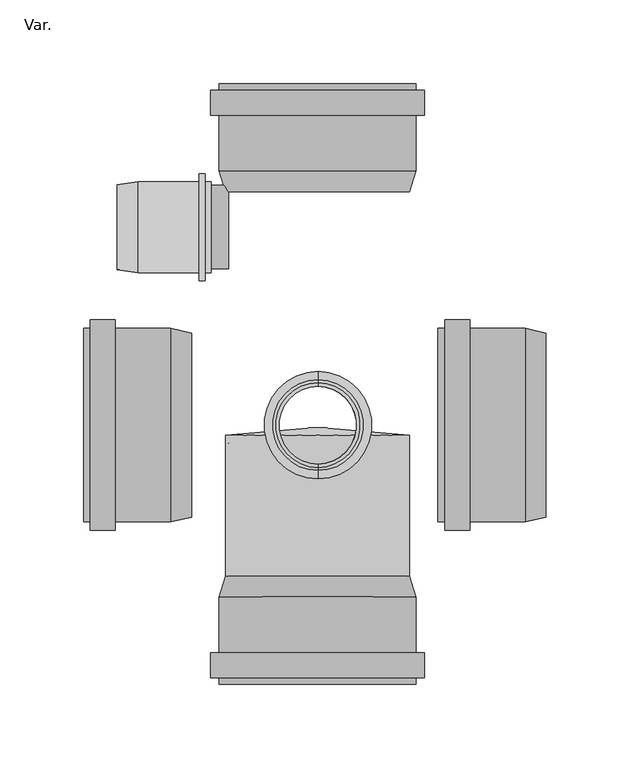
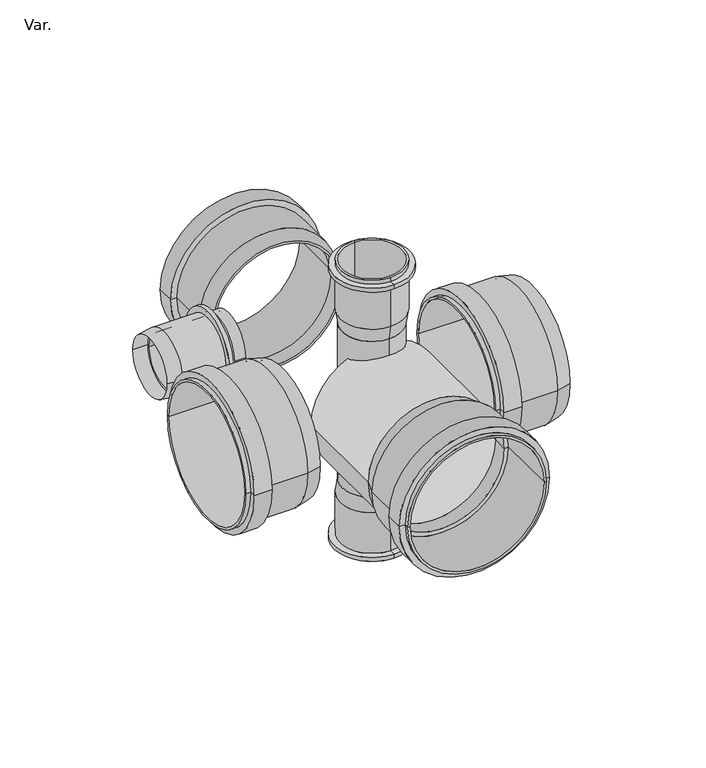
"""IFC4 building model written with IfcOpenShell, lengths in millimetres: pipe fitting geometry, AmancoWavin_Unionesdetubería_SilentiumRamalDobleConVentilación8730110x110 : Var.."""

from ifc_helpers import new_model, si_unit, frame, origin, place, context, project, spatial, polyline, circle_curve, source, transform, mapped, element, save
from ifc_brep_helpers import plane_surface, cylinder_surface, revolved_surface, advanced_brep


def var_1a2ba9cd(model_context):
    return source(origin(), model_context, "Body", "AdvancedBrep", [
        advanced_brep(
        [(-58.8781308, -135.9518162, 0.0), (58.8781308, -135.9518162, 0.0), (63.8781308, -135.9518162, 0.0), (-63.8781308, -135.9518162, 0.0), (63.8781308, -150.9518162, 0.0), (-63.8781308, -150.9518162, 0.0), (58.8781308, -150.9518162, 0.0), (-58.8781308, -150.9518162, 0.0), (58.8781308, -154.9518162, 0.0), (-58.8781308, -154.9518162, 0.0), (56.9781308, -154.9518162, 0.0), (-56.9781308, -154.9518162, 0.0), (56.9781308, -102.7151869, 0.0), (-56.9781308, -102.7151869, 0.0), (-58.8781308, -102.7518162, 0.0), (58.8781308, -102.7518162, 0.0), (-55.0186011, -90.349627, 0.0), (55.0186011, -90.349627, 0.0), (-53.13, -90.349627, 0.0), (53.13, -90.349627, 0.0), (-53.13, -102.7151869, 0.0), (53.13, -102.7151869, 0.0)],
        [
            (0, 1, circle_curve(frame((0.0, -135.9518162, 0.0), z_axis=(0.0, -1.0, 0.0), x_axis=(1.0, 0.0, 0.0)), 58.8781308)),
            (1, 2),
            (2, 3, circle_curve(frame((0.0, -135.9518162, 0.0), z_axis=(0.0, 1.0, 0.0), x_axis=(1.0, 0.0, 0.0)), 63.8781308)),
            (3, 0),
            (1, 0, circle_curve(frame((0.0, -135.9518162, 0.0), z_axis=(0.0, -1.0, 0.0), x_axis=(1.0, 0.0, 0.0)), 58.8781308)),
            (3, 2, circle_curve(frame((0.0, -135.9518162, 0.0), z_axis=(0.0, 1.0, 0.0), x_axis=(1.0, 0.0, 0.0)), 63.8781308)),
            (2, 4),
            (4, 5, circle_curve(frame((0.0, -150.9518162, 0.0), z_axis=(0.0, 1.0, 0.0), x_axis=(1.0, 0.0, 0.0)), 63.8781308)),
            (5, 3),
            (5, 4, circle_curve(frame((0.0, -150.9518162, 0.0), z_axis=(0.0, 1.0, 0.0), x_axis=(1.0, 0.0, 0.0)), 63.8781308)),
            (4, 6),
            (6, 7, circle_curve(frame((0.0, -150.9518162, 0.0), z_axis=(0.0, 1.0, 0.0), x_axis=(1.0, 0.0, 0.0)), 58.8781308)),
            (7, 5),
            (7, 6, circle_curve(frame((0.0, -150.9518162, 0.0), z_axis=(0.0, 1.0, 0.0), x_axis=(1.0, 0.0, 0.0)), 58.8781308)),
            (6, 8),
            (8, 9, circle_curve(frame((0.0, -154.9518162, 0.0), z_axis=(0.0, 1.0, 0.0), x_axis=(1.0, 0.0, 0.0)), 58.8781308)),
            (9, 7),
            (9, 8, circle_curve(frame((0.0, -154.9518162, 0.0), z_axis=(0.0, 1.0, 0.0), x_axis=(1.0, 0.0, 0.0)), 58.8781308)),
            (8, 10),
            (10, 11, circle_curve(frame((0.0, -154.9518162, 0.0), z_axis=(0.0, 1.0, 0.0), x_axis=(1.0, 0.0, 0.0)), 56.9781308)),
            (11, 9),
            (11, 10, circle_curve(frame((0.0, -154.9518162, 0.0), z_axis=(0.0, 1.0, 0.0), x_axis=(1.0, 0.0, 0.0)), 56.9781308)),
            (10, 12),
            (12, 13, circle_curve(frame((0.0, -102.7151869, 0.0), z_axis=(0.0, 1.0, 0.0), x_axis=(1.0, 0.0, 0.0)), 56.9781308)),
            (13, 11),
            (13, 12, circle_curve(frame((0.0, -102.7151869, 0.0), z_axis=(0.0, 1.0, 0.0), x_axis=(1.0, 0.0, 0.0)), 56.9781308)),
            (14, 15, circle_curve(frame((0.0, -102.7518162, 0.0), z_axis=(0.0, -1.0, 0.0), x_axis=(1.0, 0.0, 0.0)), 58.8781308)),
            (15, 1),
            (0, 14),
            (15, 14, circle_curve(frame((0.0, -102.7518162, 0.0), z_axis=(0.0, -1.0, 0.0), x_axis=(1.0, 0.0, 0.0)), 58.8781308)),
            (16, 17, circle_curve(frame((0.0, -90.349627, 0.0), z_axis=(0.0, -1.0, 0.0), x_axis=(1.0, 0.0, 0.0)), 55.0186011)),
            (17, 15),
            (14, 16),
            (17, 16, circle_curve(frame((0.0, -90.349627, 0.0), z_axis=(0.0, -1.0, 0.0), x_axis=(1.0, 0.0, 0.0)), 55.0186011)),
            (18, 19, circle_curve(frame((0.0, -90.349627, 0.0), z_axis=(0.0, -1.0, 0.0), x_axis=(1.0, 0.0, 0.0)), 53.13)),
            (19, 17),
            (16, 18),
            (19, 18, circle_curve(frame((0.0, -90.349627, 0.0), z_axis=(0.0, -1.0, 0.0), x_axis=(1.0, 0.0, 0.0)), 53.13)),
            (20, 21, circle_curve(frame((0.0, -102.7151869, 0.0), z_axis=(0.0, -1.0, 0.0), x_axis=(1.0, 0.0, 0.0)), 53.13)),
            (21, 19),
            (18, 20),
            (21, 20, circle_curve(frame((0.0, -102.7151869, 0.0), z_axis=(0.0, -1.0, 0.0), x_axis=(1.0, 0.0, 0.0)), 53.13)),
            (12, 21),
            (20, 13),
        ],
        [
            plane_surface(frame((0.0, -135.9518162, 0.0), z_axis=(0.0, 1.0, 0.0), x_axis=(1.0, 0.0, 0.0))),
            cylinder_surface(frame((0.0, 1897.2531838, 0.0), z_axis=(0.0, 1.0, 0.0), x_axis=(1.0, 0.0, 0.0)), 63.8781308),
            plane_surface(frame((0.0, -150.9518162, 0.0), z_axis=(0.0, -1.0, 0.0), x_axis=(1.0, 0.0, 0.0))),
            cylinder_surface(frame((0.0, 1897.2531838, 0.0), z_axis=(0.0, 1.0, 0.0), x_axis=(1.0, 0.0, 0.0)), 58.8781308),
            plane_surface(frame((0.0, -154.9518162, 0.0), z_axis=(0.0, -1.0, 0.0), x_axis=(1.0, 0.0, 0.0))),
            revolved_surface(polyline([(56.9781308, -102.71518689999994, 0.0), (56.9781308, -154.95181619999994, 0.0)]), (0.0, 1897.2531838, 0.0), (0.0, 1.0, 0.0)),
            revolved_surface(polyline([(58.8781308, -102.7518162, 0.0), (55.0186011, -90.349627, 0.0)]), (0.0, 1897.2531838, 0.0), (0.0, 1.0, 0.0)),
            plane_surface(frame((0.0, -90.349627, 0.0), z_axis=(0.0, 1.0, 0.0), x_axis=(1.0, 0.0, 0.0))),
            revolved_surface(polyline([(53.13, -90.34962700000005, 0.0), (53.13, -102.71518689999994, 0.0)]), (0.0, 1897.2531838, 0.0), (0.0, 1.0, 0.0)),
            plane_surface(frame((0.0, -102.7151869, 0.0), z_axis=(0.0, -1.0, 0.0), x_axis=(1.0, 0.0, 0.0))),
        ],
        [
            (0, [[1, 2, 3, 4]]),
            (0, [[5, -4, 6, -2]]),
            (1, [[-3, 7, 8, 9]]),
            (1, [[-6, -9, 10, -7]]),
            (2, [[-8, 11, 12, 13]]),
            (2, [[-10, -13, 14, -11]]),
            (3, [[-12, 15, 16, 17]]),
            (3, [[-14, -17, 18, -15]]),
            (4, [[-16, 19, 20, 21]]),
            (4, [[-18, -21, 22, -19]]),
            (5, [[-20, 23, 24, 25]]),
            (5, [[-22, -25, 26, -23]]),
            (3, [[27, 28, -1, 29]]),
            (3, [[30, -29, -5, -28]]),
            (6, [[31, 32, -27, 33]]),
            (6, [[34, -33, -30, -32]]),
            (7, [[35, 36, -31, 37]]),
            (7, [[38, -37, -34, -36]]),
            (8, [[39, 40, -35, 41]]),
            (8, [[42, -41, -38, -40]]),
            (9, [[-24, 43, -39, 44]]),
            (9, [[-26, -44, -42, -43]]),
        ],
    ),
        advanced_brep(
        [(91.0784206, -62.9, 0.0), (91.0784206, 62.9, 0.0), (91.0784206, 57.9, 0.0), (91.0784206, -57.9, 0.0), (76.0784206, -62.9, 0.0), (76.0784206, 62.9, 0.0), (76.0784206, -57.9, 0.0), (76.0784206, 57.9, 0.0), (72.0784206, -57.9, 0.0), (72.0784206, 57.9, 0.0), (72.0784206, -56.0, 0.0), (72.0784206, 56.0, 0.0), (124.3150499, -56.0, 0.0), (124.3150499, 56.0, 0.0), (124.2784206, 57.9, 0.0), (124.2784206, -57.9, 0.0), (136.6684206, 55.0218444, 0.0), (136.6684206, -55.0218444, 0.0), (136.6684206, 53.1303532, 0.0), (136.6684206, -53.1303532, 0.0)],
        [
            (0, 1, circle_curve(frame((91.0784206, 0.0, 0.0), z_axis=(1.0, 0.0, 0.0), x_axis=(0.0, 1.0, 0.0)), 62.9)),
            (1, 2),
            (2, 3, circle_curve(frame((91.0784206, 0.0, 0.0), z_axis=(-1.0, 0.0, 0.0), x_axis=(0.0, 1.0, 0.0)), 57.9)),
            (3, 0),
            (1, 0, circle_curve(frame((91.0784206, 0.0, 0.0), z_axis=(1.0, 0.0, 0.0), x_axis=(0.0, 1.0, 0.0)), 62.9)),
            (3, 2, circle_curve(frame((91.0784206, 0.0, 0.0), z_axis=(-1.0, 0.0, 0.0), x_axis=(0.0, 1.0, 0.0)), 57.9)),
            (4, 5, circle_curve(frame((76.0784206, 0.0, 0.0), z_axis=(1.0, 0.0, 0.0), x_axis=(0.0, 1.0, 0.0)), 62.9)),
            (5, 1),
            (0, 4),
            (5, 4, circle_curve(frame((76.0784206, 0.0, 0.0), z_axis=(1.0, 0.0, 0.0), x_axis=(0.0, 1.0, 0.0)), 62.9)),
            (6, 7, circle_curve(frame((76.0784206, 0.0, 0.0), z_axis=(1.0, 0.0, 0.0), x_axis=(0.0, 1.0, 0.0)), 57.9)),
            (7, 5),
            (4, 6),
            (7, 6, circle_curve(frame((76.0784206, 0.0, 0.0), z_axis=(1.0, 0.0, 0.0), x_axis=(0.0, 1.0, 0.0)), 57.9)),
            (8, 9, circle_curve(frame((72.0784206, 0.0, 0.0), z_axis=(1.0, 0.0, 0.0), x_axis=(0.0, 1.0, 0.0)), 57.9)),
            (9, 7),
            (6, 8),
            (9, 8, circle_curve(frame((72.0784206, 0.0, 0.0), z_axis=(1.0, 0.0, 0.0), x_axis=(0.0, 1.0, 0.0)), 57.9)),
            (10, 11, circle_curve(frame((72.0784206, 0.0, 0.0), z_axis=(1.0, 0.0, 0.0), x_axis=(0.0, 1.0, 0.0)), 56.0)),
            (11, 9),
            (8, 10),
            (11, 10, circle_curve(frame((72.0784206, 0.0, 0.0), z_axis=(1.0, 0.0, 0.0), x_axis=(0.0, 1.0, 0.0)), 56.0)),
            (12, 13, circle_curve(frame((124.3150499, 0.0, 0.0), z_axis=(1.0, 0.0, 0.0), x_axis=(0.0, 1.0, 0.0)), 56.0)),
            (13, 11),
            (10, 12),
            (13, 12, circle_curve(frame((124.3150499, 0.0, 0.0), z_axis=(1.0, 0.0, 0.0), x_axis=(0.0, 1.0, 0.0)), 56.0)),
            (2, 14),
            (14, 15, circle_curve(frame((124.2784206, 0.0, 0.0), z_axis=(-1.0, 0.0, 0.0), x_axis=(0.0, 1.0, 0.0)), 57.9)),
            (15, 3),
            (15, 14, circle_curve(frame((124.2784206, 0.0, 0.0), z_axis=(-1.0, 0.0, 0.0), x_axis=(0.0, 1.0, 0.0)), 57.9)),
            (14, 16),
            (16, 17, circle_curve(frame((136.6684206, 0.0, 0.0), z_axis=(-1.0, 0.0, 0.0), x_axis=(0.0, 1.0, 0.0)), 55.0218444)),
            (17, 15),
            (17, 16, circle_curve(frame((136.6684206, 0.0, 0.0), z_axis=(-1.0, 0.0, 0.0), x_axis=(0.0, 1.0, 0.0)), 55.0218444)),
            (16, 18),
            (18, 19, circle_curve(frame((136.6684206, 0.0, 0.0), z_axis=(-1.0, 0.0, 0.0), x_axis=(0.0, 1.0, 0.0)), 53.1303532)),
            (19, 17),
            (19, 18, circle_curve(frame((136.6684206, 0.0, 0.0), z_axis=(-1.0, 0.0, 0.0), x_axis=(0.0, 1.0, 0.0)), 53.1303532)),
            (18, 13),
            (12, 19),
        ],
        [
            plane_surface(frame((91.0784206, 0.0, 0.0), z_axis=(1.0, 0.0, 0.0), x_axis=(0.0, 1.0, 0.0))),
            cylinder_surface(frame((2.0784206, 0.0, 0.0), z_axis=(-1.0, 0.0, 0.0), x_axis=(0.0, 1.0, 0.0)), 62.9),
            plane_surface(frame((76.0784206, 0.0, 0.0), z_axis=(-1.0, 0.0, 0.0), x_axis=(0.0, 1.0, 0.0))),
            cylinder_surface(frame((2.0784206, 0.0, 0.0), z_axis=(-1.0, 0.0, 0.0), x_axis=(0.0, 1.0, 0.0)), 57.9),
            plane_surface(frame((72.0784206, 0.0, 0.0), z_axis=(-1.0, 0.0, 0.0), x_axis=(0.0, 1.0, 0.0))),
            revolved_surface(polyline([(72.0784206, 56.0, 0.0), (124.3150499, 56.0, 0.0)]), (2.0784206, 0.0, 0.0), (-1.0, 0.0, 0.0)),
            revolved_surface(polyline([(136.6684206, 55.0218444, 0.0), (124.2784206, 57.9, 0.0)]), (2.0784206, 0.0, 0.0), (-1.0, 0.0, 0.0)),
            plane_surface(frame((136.6684206, 0.0, 0.0), z_axis=(1.0, 0.0, 0.0), x_axis=(0.0, 1.0, 0.0))),
            revolved_surface(polyline([(124.3150499, 56.0, 0.0), (136.6684206, 53.1303532, 0.0)]), (2.0784206, 0.0, 0.0), (-1.0, 0.0, 0.0)),
        ],
        [
            (0, [[1, 2, 3, 4]]),
            (0, [[5, -4, 6, -2]]),
            (1, [[7, 8, -1, 9]]),
            (1, [[10, -9, -5, -8]]),
            (2, [[11, 12, -7, 13]]),
            (2, [[14, -13, -10, -12]]),
            (3, [[15, 16, -11, 17]]),
            (3, [[18, -17, -14, -16]]),
            (4, [[19, 20, -15, 21]]),
            (4, [[22, -21, -18, -20]]),
            (5, [[23, 24, -19, 25]]),
            (5, [[26, -25, -22, -24]]),
            (3, [[-3, 27, 28, 29]]),
            (3, [[-6, -29, 30, -27]]),
            (6, [[-28, 31, 32, 33]]),
            (6, [[-30, -33, 34, -31]]),
            (7, [[-32, 35, 36, 37]]),
            (7, [[-34, -37, 38, -35]]),
            (8, [[-36, 39, -23, 40]]),
            (8, [[-38, -40, -26, -39]]),
        ],
    ),
        advanced_brep(
        [(-63.8781308, 185.1413535, 0.0), (63.8781308, 185.1413535, 0.0), (58.8781308, 185.1413535, 0.0), (-58.8781308, 185.1413535, 0.0), (-63.8781308, 200.1413535, 0.0), (63.8781308, 200.1413535, 0.0), (-58.8781308, 200.1413535, 0.0), (58.8781308, 200.1413535, 0.0), (-58.8781308, 204.1413535, 0.0), (58.8781308, 204.1413535, 0.0), (-56.9781308, 204.1413535, 0.0), (56.9781308, 204.1413535, 0.0), (-56.9781308, 151.9047242, 0.0), (56.9781308, 151.9047242, 0.0), (58.8781308, 151.9413535, 0.0), (-58.8781308, 151.9413535, 0.0), (55.0186011, 139.5391644, 0.0), (-55.0186011, 139.5391644, 0.0), (53.13, 139.5391644, 0.0), (-53.13, 139.5391644, 0.0), (-53.13, 151.9047242, 0.0), (53.13, 151.9047242, 0.0)],
        [
            (0, 1, circle_curve(frame((0.0, 185.1413535, 0.0), z_axis=(0.0, -1.0, 0.0), x_axis=(1.0, 0.0, 0.0)), 63.8781308)),
            (1, 2),
            (2, 3, circle_curve(frame((0.0, 185.1413535, 0.0), z_axis=(0.0, 1.0, 0.0), x_axis=(1.0, 0.0, 0.0)), 58.8781308)),
            (3, 0),
            (1, 0, circle_curve(frame((0.0, 185.1413535, 0.0), z_axis=(0.0, -1.0, 0.0), x_axis=(1.0, 0.0, 0.0)), 63.8781308)),
            (3, 2, circle_curve(frame((0.0, 185.1413535, 0.0), z_axis=(0.0, 1.0, 0.0), x_axis=(1.0, 0.0, 0.0)), 58.8781308)),
            (4, 5, circle_curve(frame((0.0, 200.1413535, 0.0), z_axis=(0.0, -1.0, 0.0), x_axis=(1.0, 0.0, 0.0)), 63.8781308)),
            (5, 1),
            (0, 4),
            (5, 4, circle_curve(frame((0.0, 200.1413535, 0.0), z_axis=(0.0, -1.0, 0.0), x_axis=(1.0, 0.0, 0.0)), 63.8781308)),
            (6, 7, circle_curve(frame((0.0, 200.1413535, 0.0), z_axis=(0.0, -1.0, 0.0), x_axis=(1.0, 0.0, 0.0)), 58.8781308)),
            (7, 5),
            (4, 6),
            (7, 6, circle_curve(frame((0.0, 200.1413535, 0.0), z_axis=(0.0, -1.0, 0.0), x_axis=(1.0, 0.0, 0.0)), 58.8781308)),
            (8, 9, circle_curve(frame((0.0, 204.1413535, 0.0), z_axis=(0.0, -1.0, 0.0), x_axis=(1.0, 0.0, 0.0)), 58.8781308)),
            (9, 7),
            (6, 8),
            (9, 8, circle_curve(frame((0.0, 204.1413535, 0.0), z_axis=(0.0, -1.0, 0.0), x_axis=(1.0, 0.0, 0.0)), 58.8781308)),
            (10, 11, circle_curve(frame((0.0, 204.1413535, 0.0), z_axis=(0.0, -1.0, 0.0), x_axis=(1.0, 0.0, 0.0)), 56.9781308)),
            (11, 9),
            (8, 10),
            (11, 10, circle_curve(frame((0.0, 204.1413535, 0.0), z_axis=(0.0, -1.0, 0.0), x_axis=(1.0, 0.0, 0.0)), 56.9781308)),
            (12, 13, circle_curve(frame((0.0, 151.9047242, 0.0), z_axis=(0.0, -1.0, 0.0), x_axis=(1.0, 0.0, 0.0)), 56.9781308)),
            (13, 11),
            (10, 12),
            (13, 12, circle_curve(frame((0.0, 151.9047242, 0.0), z_axis=(0.0, -1.0, 0.0), x_axis=(1.0, 0.0, 0.0)), 56.9781308)),
            (2, 14),
            (14, 15, circle_curve(frame((0.0, 151.9413535, 0.0), z_axis=(0.0, 1.0, 0.0), x_axis=(1.0, 0.0, 0.0)), 58.8781308)),
            (15, 3),
            (15, 14, circle_curve(frame((0.0, 151.9413535, 0.0), z_axis=(0.0, 1.0, 0.0), x_axis=(1.0, 0.0, 0.0)), 58.8781308)),
            (14, 16),
            (16, 17, circle_curve(frame((0.0, 139.5391644, 0.0), z_axis=(0.0, 1.0, 0.0), x_axis=(1.0, 0.0, 0.0)), 55.0186011)),
            (17, 15),
            (17, 16, circle_curve(frame((0.0, 139.5391644, 0.0), z_axis=(0.0, 1.0, 0.0), x_axis=(1.0, 0.0, 0.0)), 55.0186011)),
            (16, 18),
            (18, 19, circle_curve(frame((0.0, 139.5391644, 0.0), z_axis=(0.0, 1.0, 0.0), x_axis=(1.0, 0.0, 0.0)), 53.13)),
            (19, 17),
            (19, 18, circle_curve(frame((0.0, 139.5391644, 0.0), z_axis=(0.0, 1.0, 0.0), x_axis=(1.0, 0.0, 0.0)), 53.13)),
            (20, 21, circle_curve(frame((0.0, 151.9047242, 0.0), z_axis=(0.0, -1.0, 0.0), x_axis=(1.0, 0.0, 0.0)), 53.13)),
            (21, 13),
            (12, 20),
            (21, 20, circle_curve(frame((0.0, 151.9047242, 0.0), z_axis=(0.0, -1.0, 0.0), x_axis=(1.0, 0.0, 0.0)), 53.13)),
            (18, 21),
            (20, 19),
        ],
        [
            plane_surface(frame((0.0, 185.1413535, 0.0), z_axis=(0.0, -1.0, 0.0), x_axis=(1.0, 0.0, 0.0))),
            cylinder_surface(frame((0.0, -1848.0636465, 0.0), z_axis=(0.0, 1.0, 0.0), x_axis=(1.0, 0.0, 0.0)), 63.8781308),
            plane_surface(frame((0.0, 200.1413535, 0.0), z_axis=(0.0, 1.0, 0.0), x_axis=(1.0, 0.0, 0.0))),
            cylinder_surface(frame((0.0, -1848.0636465, 0.0), z_axis=(0.0, 1.0, 0.0), x_axis=(1.0, 0.0, 0.0)), 58.8781308),
            plane_surface(frame((0.0, 204.1413535, 0.0), z_axis=(0.0, 1.0, 0.0), x_axis=(1.0, 0.0, 0.0))),
            revolved_surface(polyline([(56.9781308, 204.14135349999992, 0.0), (56.9781308, 151.90472419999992, 0.0)]), (0.0, -1848.0636465, 0.0), (0.0, 1.0, 0.0)),
            revolved_surface(polyline([(55.0186011, 139.5391644, 0.0), (58.8781308, 151.9413535, 0.0)]), (0.0, -1848.0636465, 0.0), (0.0, 1.0, 0.0)),
            plane_surface(frame((0.0, 139.5391644, 0.0), z_axis=(0.0, -1.0, 0.0), x_axis=(1.0, 0.0, 0.0))),
            plane_surface(frame((0.0, 151.9047242, 0.0), z_axis=(0.0, 1.0, 0.0), x_axis=(1.0, 0.0, 0.0))),
            revolved_surface(polyline([(53.13, 151.90472419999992, 0.0), (53.13, 139.5391643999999, 0.0)]), (0.0, -1848.0636465, 0.0), (0.0, 1.0, 0.0)),
        ],
        [
            (0, [[1, 2, 3, 4]]),
            (0, [[5, -4, 6, -2]]),
            (1, [[7, 8, -1, 9]]),
            (1, [[10, -9, -5, -8]]),
            (2, [[11, 12, -7, 13]]),
            (2, [[14, -13, -10, -12]]),
            (3, [[15, 16, -11, 17]]),
            (3, [[18, -17, -14, -16]]),
            (4, [[19, 20, -15, 21]]),
            (4, [[22, -21, -18, -20]]),
            (5, [[23, 24, -19, 25]]),
            (5, [[26, -25, -22, -24]]),
            (3, [[-3, 27, 28, 29]]),
            (3, [[-6, -29, 30, -27]]),
            (6, [[-28, 31, 32, 33]]),
            (6, [[-30, -33, 34, -31]]),
            (7, [[-32, 35, 36, 37]]),
            (7, [[-34, -37, 38, -35]]),
            (8, [[39, 40, -23, 41]]),
            (8, [[42, -41, -26, -40]]),
            (9, [[-36, 43, -39, 44]]),
            (9, [[-38, -44, -42, -43]]),
        ],
    ),
        advanced_brep(
        [(-70.9333256, 150.4368283, 0.0), (-70.9333256, 86.2368283, 0.0), (-70.9333256, 91.2368283, 0.0), (-70.9333256, 145.4368283, 0.0), (-67.3333256, 150.4368283, 0.0), (-67.3333256, 86.2368283, 0.0), (-67.3333256, 145.4368283, 0.0), (-67.3333256, 91.2368283, 0.0), (-63.7333256, 145.4368283, 0.0), (-63.7333256, 91.2368283, 0.0), (-63.7333256, 143.7218283, 0.0), (-63.7333256, 92.9518283, 0.0), (-119.8733256, 143.7218283, 0.0), (-119.8733256, 92.9518283, 0.0), (-107.4833256, 91.2368283, 0.0), (-107.4833256, 145.4368283, 0.0)],
        [
            (0, 1, circle_curve(frame((-70.9333256, 118.3368283, 0.0), z_axis=(-1.0, 0.0, 0.0), x_axis=(0.0, -1.0, 0.0)), 32.1)),
            (1, 2),
            (2, 3, circle_curve(frame((-70.9333256, 118.3368283, 0.0), z_axis=(1.0, 0.0, 0.0), x_axis=(0.0, -1.0, 0.0)), 27.1)),
            (3, 0),
            (1, 0, circle_curve(frame((-70.9333256, 118.3368283, 0.0), z_axis=(-1.0, 0.0, 0.0), x_axis=(0.0, -1.0, 0.0)), 32.1)),
            (3, 2, circle_curve(frame((-70.9333256, 118.3368283, 0.0), z_axis=(1.0, 0.0, 0.0), x_axis=(0.0, -1.0, 0.0)), 27.1)),
            (4, 5, circle_curve(frame((-67.3333256, 118.3368283, 0.0), z_axis=(-1.0, 0.0, 0.0), x_axis=(0.0, -1.0, 0.0)), 32.1)),
            (5, 1),
            (0, 4),
            (5, 4, circle_curve(frame((-67.3333256, 118.3368283, 0.0), z_axis=(-1.0, 0.0, 0.0), x_axis=(0.0, -1.0, 0.0)), 32.1)),
            (6, 7, circle_curve(frame((-67.3333256, 118.3368283, 0.0), z_axis=(-1.0, 0.0, 0.0), x_axis=(0.0, -1.0, 0.0)), 27.1)),
            (7, 5),
            (4, 6),
            (7, 6, circle_curve(frame((-67.3333256, 118.3368283, 0.0), z_axis=(-1.0, 0.0, 0.0), x_axis=(0.0, -1.0, 0.0)), 27.1)),
            (8, 9, circle_curve(frame((-63.7333256, 118.3368283, 0.0), z_axis=(-1.0, 0.0, 0.0), x_axis=(0.0, -1.0, 0.0)), 27.1)),
            (9, 7),
            (6, 8),
            (9, 8, circle_curve(frame((-63.7333256, 118.3368283, 0.0), z_axis=(-1.0, 0.0, 0.0), x_axis=(0.0, -1.0, 0.0)), 27.1)),
            (10, 11, circle_curve(frame((-63.7333256, 118.3368283, 0.0), z_axis=(-1.0, 0.0, 0.0), x_axis=(0.0, -1.0, 0.0)), 25.385)),
            (11, 9),
            (8, 10),
            (11, 10, circle_curve(frame((-63.7333256, 118.3368283, 0.0), z_axis=(-1.0, 0.0, 0.0), x_axis=(0.0, -1.0, 0.0)), 25.385)),
            (12, 13, circle_curve(frame((-119.8733256, 118.3368283, 0.0), z_axis=(-1.0, 0.0, 0.0), x_axis=(0.0, -1.0, 0.0)), 25.385)),
            (13, 11),
            (10, 12),
            (13, 12, circle_curve(frame((-119.8733256, 118.3368283, 0.0), z_axis=(-1.0, 0.0, 0.0), x_axis=(0.0, -1.0, 0.0)), 25.385)),
            (2, 14),
            (14, 15, circle_curve(frame((-107.4833256, 118.3368283, 0.0), z_axis=(1.0, 0.0, 0.0), x_axis=(0.0, -1.0, 0.0)), 27.1)),
            (15, 3),
            (15, 14, circle_curve(frame((-107.4833256, 118.3368283, 0.0), z_axis=(1.0, 0.0, 0.0), x_axis=(0.0, -1.0, 0.0)), 27.1)),
            (14, 13),
            (12, 15),
        ],
        [
            plane_surface(frame((-70.9333256, 118.3368283, 0.0), z_axis=(-1.0, 0.0, 0.0), x_axis=(0.0, -1.0, 0.0))),
            cylinder_surface(frame((-2115.9383256, 118.3368283, 0.0), z_axis=(1.0, 0.0, 0.0), x_axis=(0.0, -1.0, 0.0)), 32.1),
            plane_surface(frame((-67.3333256, 118.3368283, 0.0), z_axis=(1.0, 0.0, 0.0), x_axis=(0.0, -1.0, 0.0))),
            cylinder_surface(frame((-2115.9383256, 118.3368283, 0.0), z_axis=(1.0, 0.0, 0.0), x_axis=(0.0, -1.0, 0.0)), 27.1),
            plane_surface(frame((-63.7333256, 118.3368283, 0.0), z_axis=(1.0, 0.0, 0.0), x_axis=(0.0, -1.0, 0.0))),
            revolved_surface(polyline([(-63.73332560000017, 92.95182829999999, 0.0), (-119.87332560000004, 92.95182829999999, 0.0)]), (-2115.9383256, 118.3368283, 0.0), (1.0, 0.0, 0.0)),
            revolved_surface(polyline([(-119.8733256, 92.9518283, 0.0), (-107.4833256, 91.2368283, 0.0)]), (-2115.9383256, 118.3368283, 0.0), (1.0, 0.0, 0.0)),
        ],
        [
            (0, [[1, 2, 3, 4]]),
            (0, [[5, -4, 6, -2]]),
            (1, [[7, 8, -1, 9]]),
            (1, [[10, -9, -5, -8]]),
            (2, [[11, 12, -7, 13]]),
            (2, [[14, -13, -10, -12]]),
            (3, [[15, 16, -11, 17]]),
            (3, [[18, -17, -14, -16]]),
            (4, [[19, 20, -15, 21]]),
            (4, [[22, -21, -18, -20]]),
            (5, [[23, 24, -19, 25]]),
            (5, [[26, -25, -22, -24]]),
            (3, [[-3, 27, 28, 29]]),
            (3, [[-6, -29, 30, -27]]),
            (6, [[-28, 31, -23, 32]]),
            (6, [[-30, -32, -26, -31]]),
        ],
    ),
        advanced_brep(
        [(0.2459167, -27.1, -118.94), (0.2459167, 27.1, -118.94), (0.2459167, 32.1, -118.94), (0.2459167, -32.1, -118.94), (0.2459167, 32.1, -122.54), (0.2459167, -32.1, -122.54), (0.2459167, 27.1, -122.54), (0.2459167, -27.1, -122.54), (0.2459167, 27.1, -126.14), (0.2459167, -27.1, -126.14), (0.2459167, 25.385, -126.14), (0.2459167, -25.385, -126.14), (0.2459167, 25.385, -82.39), (0.2459167, -25.385, -82.39), (0.2459167, -27.1, -82.39), (0.2459167, 27.1, -82.39), (0.2459167, -25.1636693, -70.0), (0.2459167, 25.1636693, -70.0), (0.2459167, -23.2886693, -70.0), (0.2459167, 23.2886693, -70.0), (0.2459167, -23.2886693, -82.39), (0.2459167, 23.2886693, -82.39)],
        [
            (0, 1, circle_curve(frame((0.2459167, 0.0, -118.94), z_axis=(0.0, 0.0, -1.0), x_axis=(0.0, 1.0, 0.0)), 27.1)),
            (1, 2),
            (2, 3, circle_curve(frame((0.2459167, 0.0, -118.94), z_axis=(0.0, 0.0, 1.0), x_axis=(0.0, 1.0, 0.0)), 32.1)),
            (3, 0),
            (1, 0, circle_curve(frame((0.2459167, 0.0, -118.94), z_axis=(0.0, 0.0, -1.0), x_axis=(0.0, 1.0, 0.0)), 27.1)),
            (3, 2, circle_curve(frame((0.2459167, 0.0, -118.94), z_axis=(0.0, 0.0, 1.0), x_axis=(0.0, 1.0, 0.0)), 32.1)),
            (2, 4),
            (4, 5, circle_curve(frame((0.2459167, 0.0, -122.54), z_axis=(0.0, 0.0, 1.0), x_axis=(0.0, 1.0, 0.0)), 32.1)),
            (5, 3),
            (5, 4, circle_curve(frame((0.2459167, 0.0, -122.54), z_axis=(0.0, 0.0, 1.0), x_axis=(0.0, 1.0, 0.0)), 32.1)),
            (4, 6),
            (6, 7, circle_curve(frame((0.2459167, 0.0, -122.54), z_axis=(0.0, 0.0, 1.0), x_axis=(0.0, 1.0, 0.0)), 27.1)),
            (7, 5),
            (7, 6, circle_curve(frame((0.2459167, 0.0, -122.54), z_axis=(0.0, 0.0, 1.0), x_axis=(0.0, 1.0, 0.0)), 27.1)),
            (6, 8),
            (8, 9, circle_curve(frame((0.2459167, 0.0, -126.14), z_axis=(0.0, 0.0, 1.0), x_axis=(0.0, 1.0, 0.0)), 27.1)),
            (9, 7),
            (9, 8, circle_curve(frame((0.2459167, 0.0, -126.14), z_axis=(0.0, 0.0, 1.0), x_axis=(0.0, 1.0, 0.0)), 27.1)),
            (8, 10),
            (10, 11, circle_curve(frame((0.2459167, 0.0, -126.14), z_axis=(0.0, 0.0, 1.0), x_axis=(0.0, 1.0, 0.0)), 25.385)),
            (11, 9),
            (11, 10, circle_curve(frame((0.2459167, 0.0, -126.14), z_axis=(0.0, 0.0, 1.0), x_axis=(0.0, 1.0, 0.0)), 25.385)),
            (10, 12),
            (12, 13, circle_curve(frame((0.2459167, 0.0, -82.39), z_axis=(0.0, 0.0, 1.0), x_axis=(0.0, 1.0, 0.0)), 25.385)),
            (13, 11),
            (13, 12, circle_curve(frame((0.2459167, 0.0, -82.39), z_axis=(0.0, 0.0, 1.0), x_axis=(0.0, 1.0, 0.0)), 25.385)),
            (14, 15, circle_curve(frame((0.2459167, 0.0, -82.39), z_axis=(0.0, 0.0, -1.0), x_axis=(0.0, 1.0, 0.0)), 27.1)),
            (15, 1),
            (0, 14),
            (15, 14, circle_curve(frame((0.2459167, 0.0, -82.39), z_axis=(0.0, 0.0, -1.0), x_axis=(0.0, 1.0, 0.0)), 27.1)),
            (16, 17, circle_curve(frame((0.2459167, 0.0, -70.0), z_axis=(0.0, 0.0, -1.0), x_axis=(0.0, 1.0, 0.0)), 25.1636693)),
            (17, 15),
            (14, 16),
            (17, 16, circle_curve(frame((0.2459167, 0.0, -70.0), z_axis=(0.0, 0.0, -1.0), x_axis=(0.0, 1.0, 0.0)), 25.1636693)),
            (18, 19, circle_curve(frame((0.2459167, 0.0, -70.0), z_axis=(0.0, 0.0, -1.0), x_axis=(0.0, 1.0, 0.0)), 23.2886693)),
            (19, 17),
            (16, 18),
            (19, 18, circle_curve(frame((0.2459167, 0.0, -70.0), z_axis=(0.0, 0.0, -1.0), x_axis=(0.0, 1.0, 0.0)), 23.2886693)),
            (20, 21, circle_curve(frame((0.2459167, 0.0, -82.39), z_axis=(0.0, 0.0, -1.0), x_axis=(0.0, 1.0, 0.0)), 23.2886693)),
            (21, 19),
            (18, 20),
            (21, 20, circle_curve(frame((0.2459167, 0.0, -82.39), z_axis=(0.0, 0.0, -1.0), x_axis=(0.0, 1.0, 0.0)), 23.2886693)),
            (12, 21),
            (20, 13),
        ],
        [
            plane_surface(frame((0.2459167, 0.0, -118.94), z_axis=(0.0, 0.0, 1.0), x_axis=(0.0, 1.0, 0.0))),
            cylinder_surface(frame((0.2459167, 0.0, 1926.065), z_axis=(0.0, 0.0, 1.0), x_axis=(0.0, 1.0, 0.0)), 32.1),
            plane_surface(frame((0.2459167, 0.0, -122.54), z_axis=(0.0, 0.0, -1.0), x_axis=(0.0, 1.0, 0.0))),
            cylinder_surface(frame((0.2459167, 0.0, 1926.065), z_axis=(0.0, 0.0, 1.0), x_axis=(0.0, 1.0, 0.0)), 27.1),
            plane_surface(frame((0.2459167, 0.0, -126.14), z_axis=(0.0, 0.0, -1.0), x_axis=(0.0, 1.0, 0.0))),
            revolved_surface(polyline([(0.2459167, 25.385, -82.3900000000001), (0.2459167, 25.385, -126.13999999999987)]), (0.2459167, 0.0, 1926.065), (0.0, 0.0, 1.0)),
            revolved_surface(polyline([(0.2459167, 27.1, -82.39), (0.2459167, 25.1636693, -70.0)]), (0.2459167, 0.0, 1926.065), (0.0, 0.0, 1.0)),
            plane_surface(frame((0.2459167, 0.0, -70.0), z_axis=(0.0, 0.0, 1.0), x_axis=(0.0, 1.0, 0.0))),
            revolved_surface(polyline([(0.2459167, 23.2886693, -70.0), (0.2459167, 23.2886693, -82.3900000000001)]), (0.2459167, 0.0, 1926.065), (0.0, 0.0, 1.0)),
            plane_surface(frame((0.2459167, 0.0, -82.39), z_axis=(0.0, 0.0, -1.0), x_axis=(0.0, 1.0, 0.0))),
        ],
        [
            (0, [[1, 2, 3, 4]]),
            (0, [[5, -4, 6, -2]]),
            (1, [[-3, 7, 8, 9]]),
            (1, [[-6, -9, 10, -7]]),
            (2, [[-8, 11, 12, 13]]),
            (2, [[-10, -13, 14, -11]]),
            (3, [[-12, 15, 16, 17]]),
            (3, [[-14, -17, 18, -15]]),
            (4, [[-16, 19, 20, 21]]),
            (4, [[-18, -21, 22, -19]]),
            (5, [[-20, 23, 24, 25]]),
            (5, [[-22, -25, 26, -23]]),
            (3, [[27, 28, -1, 29]]),
            (3, [[30, -29, -5, -28]]),
            (6, [[31, 32, -27, 33]]),
            (6, [[34, -33, -30, -32]]),
            (7, [[35, 36, -31, 37]]),
            (7, [[38, -37, -34, -36]]),
            (8, [[39, 40, -35, 41]]),
            (8, [[42, -41, -38, -40]]),
            (9, [[-24, 43, -39, 44]]),
            (9, [[-26, -44, -42, -43]]),
        ],
    ),
        advanced_brep(
        [(0.2459167, -32.1, 118.94), (0.2459167, 32.1, 118.94), (0.2459167, 27.1, 118.94), (0.2459167, -27.1, 118.94), (0.2459167, -32.1, 122.54), (0.2459167, 32.1, 122.54), (0.2459167, -27.1, 122.54), (0.2459167, 27.1, 122.54), (0.2459167, -27.1, 126.14), (0.2459167, 27.1, 126.14), (0.2459167, -25.385, 126.14), (0.2459167, 25.385, 126.14), (0.2459167, -25.385, 82.39), (0.2459167, 25.385, 82.39), (0.2459167, 27.1, 82.39), (0.2459167, -27.1, 82.39), (0.2459167, -25.1636693, 70.0), (0.2459167, 25.1636693, 70.0), (0.2459167, 23.2886693, 70.0), (0.2459167, -23.2886693, 70.0), (0.2459167, -23.2886693, 82.39), (0.2459167, 23.2886693, 82.39)],
        [
            (0, 1, circle_curve(frame((0.2459167, 0.0, 118.94), z_axis=(0.0, 0.0, -1.0), x_axis=(0.0, 1.0, 0.0)), 32.1)),
            (1, 2),
            (2, 3, circle_curve(frame((0.2459167, 0.0, 118.94), z_axis=(0.0, 0.0, 1.0), x_axis=(0.0, 1.0, 0.0)), 27.1)),
            (3, 0),
            (1, 0, circle_curve(frame((0.2459167, 0.0, 118.94), z_axis=(0.0, 0.0, -1.0), x_axis=(0.0, 1.0, 0.0)), 32.1)),
            (3, 2, circle_curve(frame((0.2459167, 0.0, 118.94), z_axis=(0.0, 0.0, 1.0), x_axis=(0.0, 1.0, 0.0)), 27.1)),
            (4, 5, circle_curve(frame((0.2459167, 0.0, 122.54), z_axis=(0.0, 0.0, -1.0), x_axis=(0.0, 1.0, 0.0)), 32.1)),
            (5, 1),
            (0, 4),
            (5, 4, circle_curve(frame((0.2459167, 0.0, 122.54), z_axis=(0.0, 0.0, -1.0), x_axis=(0.0, 1.0, 0.0)), 32.1)),
            (6, 7, circle_curve(frame((0.2459167, 0.0, 122.54), z_axis=(0.0, 0.0, -1.0), x_axis=(0.0, 1.0, 0.0)), 27.1)),
            (7, 5),
            (4, 6),
            (7, 6, circle_curve(frame((0.2459167, 0.0, 122.54), z_axis=(0.0, 0.0, -1.0), x_axis=(0.0, 1.0, 0.0)), 27.1)),
            (8, 9, circle_curve(frame((0.2459167, 0.0, 126.14), z_axis=(0.0, 0.0, -1.0), x_axis=(0.0, 1.0, 0.0)), 27.1)),
            (9, 7),
            (6, 8),
            (9, 8, circle_curve(frame((0.2459167, 0.0, 126.14), z_axis=(0.0, 0.0, -1.0), x_axis=(0.0, 1.0, 0.0)), 27.1)),
            (10, 11, circle_curve(frame((0.2459167, 0.0, 126.14), z_axis=(0.0, 0.0, -1.0), x_axis=(0.0, 1.0, 0.0)), 25.385)),
            (11, 9),
            (8, 10),
            (11, 10, circle_curve(frame((0.2459167, 0.0, 126.14), z_axis=(0.0, 0.0, -1.0), x_axis=(0.0, 1.0, 0.0)), 25.385)),
            (12, 13, circle_curve(frame((0.2459167, 0.0, 82.39), z_axis=(0.0, 0.0, -1.0), x_axis=(0.0, 1.0, 0.0)), 25.385)),
            (13, 11),
            (10, 12),
            (13, 12, circle_curve(frame((0.2459167, 0.0, 82.39), z_axis=(0.0, 0.0, -1.0), x_axis=(0.0, 1.0, 0.0)), 25.385)),
            (2, 14),
            (14, 15, circle_curve(frame((0.2459167, 0.0, 82.39), z_axis=(0.0, 0.0, 1.0), x_axis=(0.0, 1.0, 0.0)), 27.1)),
            (15, 3),
            (15, 14, circle_curve(frame((0.2459167, 0.0, 82.39), z_axis=(0.0, 0.0, 1.0), x_axis=(0.0, 1.0, 0.0)), 27.1)),
            (16, 17, circle_curve(frame((0.2459167, 0.0, 70.0), z_axis=(0.0, 0.0, -1.0), x_axis=(0.0, 1.0, 0.0)), 25.1636693)),
            (17, 18),
            (18, 19, circle_curve(frame((0.2459167, 0.0, 70.0), z_axis=(0.0, 0.0, 1.0), x_axis=(0.0, 1.0, 0.0)), 23.2886693)),
            (19, 16),
            (17, 16, circle_curve(frame((0.2459167, 0.0, 70.0), z_axis=(0.0, 0.0, -1.0), x_axis=(0.0, 1.0, 0.0)), 25.1636693)),
            (19, 18, circle_curve(frame((0.2459167, 0.0, 70.0), z_axis=(0.0, 0.0, 1.0), x_axis=(0.0, 1.0, 0.0)), 23.2886693)),
            (14, 17),
            (16, 15),
            (20, 21, circle_curve(frame((0.2459167, 0.0, 82.39), z_axis=(0.0, 0.0, -1.0), x_axis=(0.0, 1.0, 0.0)), 23.2886693)),
            (21, 13),
            (12, 20),
            (21, 20, circle_curve(frame((0.2459167, 0.0, 82.39), z_axis=(0.0, 0.0, -1.0), x_axis=(0.0, 1.0, 0.0)), 23.2886693)),
            (18, 21),
            (20, 19),
        ],
        [
            plane_surface(frame((0.2459167, 0.0, 118.94), z_axis=(0.0, 0.0, -1.0), x_axis=(0.0, 1.0, 0.0))),
            cylinder_surface(frame((0.2459167, 0.0, -1926.065), z_axis=(0.0, 0.0, 1.0), x_axis=(0.0, 1.0, 0.0)), 32.1),
            plane_surface(frame((0.2459167, 0.0, 122.54), z_axis=(0.0, 0.0, 1.0), x_axis=(0.0, 1.0, 0.0))),
            cylinder_surface(frame((0.2459167, 0.0, -1926.065), z_axis=(0.0, 0.0, 1.0), x_axis=(0.0, 1.0, 0.0)), 27.1),
            plane_surface(frame((0.2459167, 0.0, 126.14), z_axis=(0.0, 0.0, 1.0), x_axis=(0.0, 1.0, 0.0))),
            revolved_surface(polyline([(0.2459167, 25.385, 126.13999999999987), (0.2459167, 25.385, 82.3900000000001)]), (0.2459167, 0.0, -1926.065), (0.0, 0.0, 1.0)),
            plane_surface(frame((0.2459167, 0.0, 70.0), z_axis=(0.0, 0.0, -1.0), x_axis=(0.0, 1.0, 0.0))),
            revolved_surface(polyline([(0.2459167, 25.1636693, 70.0), (0.2459167, 27.1, 82.39)]), (0.2459167, 0.0, -1926.065), (0.0, 0.0, 1.0)),
            plane_surface(frame((0.2459167, 0.0, 82.39), z_axis=(0.0, 0.0, 1.0), x_axis=(0.0, 1.0, 0.0))),
            revolved_surface(polyline([(0.2459167, 23.2886693, 82.3900000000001), (0.2459167, 23.2886693, 70.0)]), (0.2459167, 0.0, -1926.065), (0.0, 0.0, 1.0)),
        ],
        [
            (0, [[1, 2, 3, 4]]),
            (0, [[5, -4, 6, -2]]),
            (1, [[7, 8, -1, 9]]),
            (1, [[10, -9, -5, -8]]),
            (2, [[11, 12, -7, 13]]),
            (2, [[14, -13, -10, -12]]),
            (3, [[15, 16, -11, 17]]),
            (3, [[18, -17, -14, -16]]),
            (4, [[19, 20, -15, 21]]),
            (4, [[22, -21, -18, -20]]),
            (5, [[23, 24, -19, 25]]),
            (5, [[26, -25, -22, -24]]),
            (3, [[-3, 27, 28, 29]]),
            (3, [[-6, -29, 30, -27]]),
            (6, [[31, 32, 33, 34]]),
            (6, [[35, -34, 36, -32]]),
            (7, [[-28, 37, -31, 38]]),
            (7, [[-30, -38, -35, -37]]),
            (8, [[39, 40, -23, 41]]),
            (8, [[42, -41, -26, -40]]),
            (9, [[-33, 43, -39, 44]]),
            (9, [[-36, -44, -42, -43]]),
        ],
    ),
        advanced_brep(
        [(-121.0, -62.9, 0.0), (-121.0, 62.9, 0.0), (-121.0, 57.9, 0.0), (-121.0, -57.9, 0.0), (-136.0, -62.9, 0.0), (-136.0, 62.9, 0.0), (-136.0, -57.9, 0.0), (-136.0, 57.9, 0.0), (-140.0, -57.9, 0.0), (-140.0, 57.9, 0.0), (-140.0, -56.0, 0.0), (-140.0, 56.0, 0.0), (-87.7633707, -56.0, 0.0), (-87.7633707, 56.0, 0.0), (-87.8, 57.9, 0.0), (-87.8, -57.9, 0.0), (-75.41, 55.0218444, 0.0), (-75.41, -55.0218444, 0.0), (-75.41, 53.1303532, 0.0), (-75.41, -53.1303532, 0.0), (-87.7633707, -53.1303532, 0.0), (-87.7633707, 53.1303532, 0.0)],
        [
            (0, 1, circle_curve(frame((-121.0, 0.0, 0.0), z_axis=(1.0, 0.0, 0.0), x_axis=(0.0, 1.0, 0.0)), 62.9)),
            (1, 2),
            (2, 3, circle_curve(frame((-121.0, 0.0, 0.0), z_axis=(-1.0, 0.0, 0.0), x_axis=(0.0, 1.0, 0.0)), 57.9)),
            (3, 0),
            (1, 0, circle_curve(frame((-121.0, 0.0, 0.0), z_axis=(1.0, 0.0, 0.0), x_axis=(0.0, 1.0, 0.0)), 62.9)),
            (3, 2, circle_curve(frame((-121.0, 0.0, 0.0), z_axis=(-1.0, 0.0, 0.0), x_axis=(0.0, 1.0, 0.0)), 57.9)),
            (4, 5, circle_curve(frame((-136.0, 0.0, 0.0), z_axis=(1.0, 0.0, 0.0), x_axis=(0.0, 1.0, 0.0)), 62.9)),
            (5, 1),
            (0, 4),
            (5, 4, circle_curve(frame((-136.0, 0.0, 0.0), z_axis=(1.0, 0.0, 0.0), x_axis=(0.0, 1.0, 0.0)), 62.9)),
            (6, 7, circle_curve(frame((-136.0, 0.0, 0.0), z_axis=(1.0, 0.0, 0.0), x_axis=(0.0, 1.0, 0.0)), 57.9)),
            (7, 5),
            (4, 6),
            (7, 6, circle_curve(frame((-136.0, 0.0, 0.0), z_axis=(1.0, 0.0, 0.0), x_axis=(0.0, 1.0, 0.0)), 57.9)),
            (8, 9, circle_curve(frame((-140.0, 0.0, 0.0), z_axis=(1.0, 0.0, 0.0), x_axis=(0.0, 1.0, 0.0)), 57.9)),
            (9, 7),
            (6, 8),
            (9, 8, circle_curve(frame((-140.0, 0.0, 0.0), z_axis=(1.0, 0.0, 0.0), x_axis=(0.0, 1.0, 0.0)), 57.9)),
            (10, 11, circle_curve(frame((-140.0, 0.0, 0.0), z_axis=(1.0, 0.0, 0.0), x_axis=(0.0, 1.0, 0.0)), 56.0)),
            (11, 9),
            (8, 10),
            (11, 10, circle_curve(frame((-140.0, 0.0, 0.0), z_axis=(1.0, 0.0, 0.0), x_axis=(0.0, 1.0, 0.0)), 56.0)),
            (12, 13, circle_curve(frame((-87.7633707, 0.0, 0.0), z_axis=(1.0, 0.0, 0.0), x_axis=(0.0, 1.0, 0.0)), 56.0)),
            (13, 11),
            (10, 12),
            (13, 12, circle_curve(frame((-87.7633707, 0.0, 0.0), z_axis=(1.0, 0.0, 0.0), x_axis=(0.0, 1.0, 0.0)), 56.0)),
            (2, 14),
            (14, 15, circle_curve(frame((-87.8, 0.0, 0.0), z_axis=(-1.0, 0.0, 0.0), x_axis=(0.0, 1.0, 0.0)), 57.9)),
            (15, 3),
            (15, 14, circle_curve(frame((-87.8, 0.0, 0.0), z_axis=(-1.0, 0.0, 0.0), x_axis=(0.0, 1.0, 0.0)), 57.9)),
            (14, 16),
            (16, 17, circle_curve(frame((-75.41, 0.0, 0.0), z_axis=(-1.0, 0.0, 0.0), x_axis=(0.0, 1.0, 0.0)), 55.0218444)),
            (17, 15),
            (17, 16, circle_curve(frame((-75.41, 0.0, 0.0), z_axis=(-1.0, 0.0, 0.0), x_axis=(0.0, 1.0, 0.0)), 55.0218444)),
            (16, 18),
            (18, 19, circle_curve(frame((-75.41, 0.0, 0.0), z_axis=(-1.0, 0.0, 0.0), x_axis=(0.0, 1.0, 0.0)), 53.1303532)),
            (19, 17),
            (19, 18, circle_curve(frame((-75.41, 0.0, 0.0), z_axis=(-1.0, 0.0, 0.0), x_axis=(0.0, 1.0, 0.0)), 53.1303532)),
            (20, 21, circle_curve(frame((-87.7633707, 0.0, 0.0), z_axis=(1.0, 0.0, 0.0), x_axis=(0.0, 1.0, 0.0)), 53.1303532)),
            (21, 13),
            (12, 20),
            (21, 20, circle_curve(frame((-87.7633707, 0.0, 0.0), z_axis=(1.0, 0.0, 0.0), x_axis=(0.0, 1.0, 0.0)), 53.1303532)),
            (18, 21),
            (20, 19),
        ],
        [
            plane_surface(frame((-121.0, 0.0, 0.0), z_axis=(1.0, 0.0, 0.0), x_axis=(0.0, 1.0, 0.0))),
            cylinder_surface(frame((-210.0, 0.0, 0.0), z_axis=(-1.0, 0.0, 0.0), x_axis=(0.0, 1.0, 0.0)), 62.9),
            plane_surface(frame((-136.0, 0.0, 0.0), z_axis=(-1.0, 0.0, 0.0), x_axis=(0.0, 1.0, 0.0))),
            cylinder_surface(frame((-210.0, 0.0, 0.0), z_axis=(-1.0, 0.0, 0.0), x_axis=(0.0, 1.0, 0.0)), 57.9),
            plane_surface(frame((-140.0, 0.0, 0.0), z_axis=(-1.0, 0.0, 0.0), x_axis=(0.0, 1.0, 0.0))),
            revolved_surface(polyline([(-140.0, 56.0, 0.0), (-87.7633707, 56.0, 0.0)]), (-210.0, 0.0, 0.0), (-1.0, 0.0, 0.0)),
            revolved_surface(polyline([(-75.41, 55.0218444, 0.0), (-87.8, 57.9, 0.0)]), (-210.0, 0.0, 0.0), (-1.0, 0.0, 0.0)),
            plane_surface(frame((-75.41, 0.0, 0.0), z_axis=(1.0, 0.0, 0.0), x_axis=(0.0, 1.0, 0.0))),
            plane_surface(frame((-87.7633707, 0.0, 0.0), z_axis=(-1.0, 0.0, 0.0), x_axis=(0.0, 1.0, 0.0))),
            revolved_surface(polyline([(-87.7633707, 53.1303532, 0.0), (-75.41, 53.1303532, 0.0)]), (-210.0, 0.0, 0.0), (-1.0, 0.0, 0.0)),
        ],
        [
            (0, [[1, 2, 3, 4]]),
            (0, [[5, -4, 6, -2]]),
            (1, [[7, 8, -1, 9]]),
            (1, [[10, -9, -5, -8]]),
            (2, [[11, 12, -7, 13]]),
            (2, [[14, -13, -10, -12]]),
            (3, [[15, 16, -11, 17]]),
            (3, [[18, -17, -14, -16]]),
            (4, [[19, 20, -15, 21]]),
            (4, [[22, -21, -18, -20]]),
            (5, [[23, 24, -19, 25]]),
            (5, [[26, -25, -22, -24]]),
            (3, [[-3, 27, 28, 29]]),
            (3, [[-6, -29, 30, -27]]),
            (6, [[-28, 31, 32, 33]]),
            (6, [[-30, -33, 34, -31]]),
            (7, [[-32, 35, 36, 37]]),
            (7, [[-34, -37, 38, -35]]),
            (8, [[39, 40, -23, 41]]),
            (8, [[42, -41, -26, -40]]),
            (9, [[-36, 43, -39, 44]]),
            (9, [[-38, -44, -42, -43]]),
        ],
    ),
        advanced_brep(
        [(53.13, -10.9361573, 0.0), (-53.13, -10.9361573, 0.0), (-53.13, -90.349627, 0.0), (53.13, -90.349627, 0.0), (2.576908, -1.5177907, 0.0), (-2.576908, -1.5177907, 0.0), (-2.7109459, -6.548354, 0.0), (2.7109459, -6.548354, 0.0), (55.02, -6.0817393, 0.0), (-55.02, -6.0817393, 0.0), (55.02, -90.349627, 0.0), (-55.02, -90.349627, 0.0)],
        [
            (0, 1, circle_curve(frame((0.0, -10.9361573, 0.0), z_axis=(0.0, 1.0, 0.0), x_axis=(-1.0000000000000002, 0.0, 0.0)), 53.13)),
            (1, 2),
            (2, 3, circle_curve(frame((0.0, -90.349627, 0.0), z_axis=(0.0, -1.0, 0.0), x_axis=(-1.0000000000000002, 0.0, 0.0)), 53.13)),
            (3, 0),
            (1, 0, circle_curve(frame((0.0, -10.9361573, 0.0), z_axis=(0.0, 1.0, 0.0), x_axis=(-1.0000000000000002, 0.0, 0.0)), 53.13)),
            (3, 2, circle_curve(frame((0.0, -90.349627, 0.0), z_axis=(0.0, -1.0, 0.0), x_axis=(-1.0000000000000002, 0.0, 0.0)), 53.13)),
            (4, 5, circle_curve(frame((0.0, -1.5177907, 0.0), z_axis=(0.0, 1.0, 0.0), x_axis=(-1.0000000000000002, 0.0, 0.0)), 2.576908)),
            (5, 6),
            (6, 7, circle_curve(frame((0.0, -6.548354, 0.0), z_axis=(0.0, -1.0, 0.0), x_axis=(-1.0000000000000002, 0.0, 0.0)), 2.7109459)),
            (7, 4),
            (5, 4, circle_curve(frame((0.0, -1.5177907, 0.0), z_axis=(0.0, 1.0, 0.0), x_axis=(-1.0000000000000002, 0.0, 0.0)), 2.576908)),
            (7, 6, circle_curve(frame((0.0, -6.548354, 0.0), z_axis=(0.0, -1.0, 0.0), x_axis=(-1.0000000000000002, 0.0, 0.0)), 2.7109459)),
            (8, 9, circle_curve(frame((0.0, -6.0817393, 0.0), z_axis=(0.0, 1.0, 0.0), x_axis=(-1.0000000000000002, 0.0, 0.0)), 55.02)),
            (9, 5),
            (4, 8),
            (9, 8, circle_curve(frame((0.0, -6.0817393, 0.0), z_axis=(0.0, 1.0, 0.0), x_axis=(-1.0000000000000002, 0.0, 0.0)), 55.02)),
            (6, 1),
            (0, 7),
            (10, 11, circle_curve(frame((0.0, -90.349627, 0.0), z_axis=(0.0, 1.0, 0.0), x_axis=(-1.0000000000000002, 0.0, 0.0)), 55.02)),
            (11, 9),
            (8, 10),
            (11, 10, circle_curve(frame((0.0, -90.349627, 0.0), z_axis=(0.0, 1.0, 0.0), x_axis=(-1.0000000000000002, 0.0, 0.0)), 55.02)),
            (2, 11),
            (10, 3),
        ],
        [
            revolved_surface(polyline([(-53.13000000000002, -90.349627, 0.0), (-53.13000000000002, -10.9361573, 0.0)]), (0.0, 0.0, 0.0), (0.0, -1.0, 0.0)),
            revolved_surface(polyline([(-2.7109459, -6.548354, 0.0), (-2.576908, -1.5177907, 0.0)]), (0.0, 0.0, 0.0), (0.0, -1.0, 0.0)),
            revolved_surface(polyline([(-2.576908, -1.5177907, 0.0), (-55.02, -6.0817393, 0.0)]), (0.0, 0.0, 0.0), (0.0, -1.0, 0.0)),
            revolved_surface(polyline([(-53.13, -10.9361573, 0.0), (-2.7109459, -6.548354, 0.0)]), (0.0, 0.0, 0.0), (0.0, -1.0, 0.0)),
            cylinder_surface(frame((0.0, 0.0, 0.0), z_axis=(0.0, -1.0, 0.0), x_axis=(-1.0000000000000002, 0.0, 0.0)), 55.02),
            plane_surface(frame((0.0, -90.349627, 0.0), z_axis=(0.0, -1.0, 0.0), x_axis=(-1.0, 0.0, 0.0))),
        ],
        [
            (0, [[1, 2, 3, 4]]),
            (0, [[5, -4, 6, -2]]),
            (1, [[7, 8, 9, 10]]),
            (1, [[11, -10, 12, -8]]),
            (2, [[13, 14, -7, 15]]),
            (2, [[16, -15, -11, -14]]),
            (3, [[-9, 17, -1, 18]]),
            (3, [[-12, -18, -5, -17]]),
            (4, [[19, 20, -13, 21]]),
            (4, [[22, -21, -16, -20]]),
            (5, [[-3, 23, -19, 24]]),
            (5, [[-6, -24, -22, -23]]),
        ],
    ),
        advanced_brep(
        [(0.0, -23.2886693, 70.0), (0.0, 23.2886693, 70.0), (0.0, 25.1636693, 70.0), (0.0, -25.1636693, 70.0), (0.0, -23.2886693, -70.0), (0.0, 23.2886693, -70.0), (0.0, -25.1636693, -70.0), (0.0, 25.1636693, -70.0)],
        [
            (0, 1, circle_curve(frame((0.0, 0.0, 70.0), z_axis=(0.0, 0.0, -1.0), x_axis=(0.0, 1.0, 0.0)), 23.2886693)),
            (1, 2),
            (2, 3, circle_curve(frame((0.0, 0.0, 70.0), z_axis=(0.0, 0.0, 1.0), x_axis=(0.0, 1.0, 0.0)), 25.1636693)),
            (3, 0),
            (1, 0, circle_curve(frame((0.0, 0.0, 70.0), z_axis=(0.0, 0.0, -1.0), x_axis=(0.0, 1.0, 0.0)), 23.2886693)),
            (3, 2, circle_curve(frame((0.0, 0.0, 70.0), z_axis=(0.0, 0.0, 1.0), x_axis=(0.0, 1.0, 0.0)), 25.1636693)),
            (4, 5, circle_curve(frame((0.0, 0.0, -70.0), z_axis=(0.0, 0.0, -1.0), x_axis=(0.0, 1.0, 0.0)), 23.2886693)),
            (5, 1),
            (0, 4),
            (5, 4, circle_curve(frame((0.0, 0.0, -70.0), z_axis=(0.0, 0.0, -1.0), x_axis=(0.0, 1.0, 0.0)), 23.2886693)),
            (6, 7, circle_curve(frame((0.0, 0.0, -70.0), z_axis=(0.0, 0.0, -1.0), x_axis=(0.0, 1.0, 0.0)), 25.1636693)),
            (7, 5),
            (4, 6),
            (7, 6, circle_curve(frame((0.0, 0.0, -70.0), z_axis=(0.0, 0.0, -1.0), x_axis=(0.0, 1.0, 0.0)), 25.1636693)),
            (2, 7),
            (6, 3),
        ],
        [
            plane_surface(frame((0.0, 0.0, 70.0), z_axis=(0.0, 0.0, 1.0), x_axis=(0.0, 1.0, 0.0))),
            revolved_surface(polyline([(0.0, 23.2886693, 70.0), (0.0, 23.2886693, -70.0)]), (0.0, 0.0, 143.0), (0.0, 0.0, 1.0)),
            plane_surface(frame((0.0, 0.0, -70.0), z_axis=(0.0, 0.0, -1.0), x_axis=(0.0, 1.0, 0.0))),
            cylinder_surface(frame((0.0, 0.0, 143.0), z_axis=(0.0, 0.0, 1.0), x_axis=(0.0, 1.0, 0.0)), 25.1636693),
        ],
        [
            (0, [[1, 2, 3, 4]]),
            (0, [[5, -4, 6, -2]]),
            (1, [[7, 8, -1, 9]]),
            (1, [[10, -9, -5, -8]]),
            (2, [[11, 12, -7, 13]]),
            (2, [[14, -13, -10, -12]]),
            (3, [[-3, 15, -11, 16]]),
            (3, [[-6, -16, -14, -15]]),
        ],
    ),
        advanced_brep(
        [(-53.1285825, 96.0, 0.0), (-53.1285825, 141.0, 0.0), (-107.4296143, 141.0, 0.0), (-107.4296143, 96.0, 0.0), (-53.1285825, 93.4997726, 0.0), (-53.1285825, 143.5002274, 0.0), (-107.4296143, 93.5, 0.0), (-107.4296143, 143.5, 0.0)],
        [
            (0, 1, circle_curve(frame((-53.1285825, 118.5, 0.0), z_axis=(1.0, 0.0, 0.0), x_axis=(0.0, 1.0, 0.0)), 22.5)),
            (1, 2),
            (2, 3, circle_curve(frame((-107.4296143, 118.5, 0.0), z_axis=(-1.0, 0.0, 0.0), x_axis=(0.0, 1.0, 0.0)), 22.5)),
            (3, 0),
            (1, 0, circle_curve(frame((-53.1285825, 118.5, 0.0), z_axis=(1.0, 0.0, 0.0), x_axis=(0.0, 1.0, 0.0)), 22.5)),
            (3, 2, circle_curve(frame((-107.4296143, 118.5, 0.0), z_axis=(-1.0, 0.0, 0.0), x_axis=(0.0, 1.0, 0.0)), 22.5)),
            (4, 5, circle_curve(frame((-53.1285825, 118.5, 0.0), z_axis=(1.0, 0.0, 0.0), x_axis=(0.0, 1.0, 0.0)), 25.0002274)),
            (5, 1),
            (0, 4),
            (5, 4, circle_curve(frame((-53.1285825, 118.5, 0.0), z_axis=(1.0, 0.0, 0.0), x_axis=(0.0, 1.0, 0.0)), 25.0002274)),
            (6, 7, circle_curve(frame((-107.4296143, 118.5, 0.0), z_axis=(1.0, 0.0, 0.0), x_axis=(0.0, 1.0, 0.0)), 25.0)),
            (7, 5),
            (4, 6),
            (7, 6, circle_curve(frame((-107.4296143, 118.5, 0.0), z_axis=(1.0, 0.0, 0.0), x_axis=(0.0, 1.0, 0.0)), 25.0)),
            (2, 7),
            (6, 3),
        ],
        [
            revolved_surface(polyline([(-107.4296143, 141.0, 0.0), (-53.1285825, 141.0, 0.0)]), (-99.3309029, 118.5, 0.0), (-1.0, 0.0, 0.0)),
            plane_surface(frame((-53.1285825, 118.5, 0.0), z_axis=(1.0, 0.0, 0.0), x_axis=(0.0, 1.0, 0.0))),
            cylinder_surface(frame((-99.3309029, 118.5, 0.0), z_axis=(-1.0, 0.0, 0.0), x_axis=(0.0, 1.0, 0.0)), 25.0),
            plane_surface(frame((-107.4296143, 118.5, 0.0), z_axis=(-1.0, 0.0, 0.0), x_axis=(0.0, 1.0, 0.0))),
        ],
        [
            (0, [[1, 2, 3, 4]]),
            (0, [[5, -4, 6, -2]]),
            (1, [[7, 8, -1, 9]]),
            (1, [[10, -9, -5, -8]]),
            (2, [[11, 12, -7, 13]]),
            (2, [[14, -13, -10, -12]]),
            (3, [[-3, 15, -11, 16]]),
            (3, [[-6, -16, -14, -15]]),
        ],
    ),
    ])


if __name__ == "__main__":
    model = new_model("IFC4")
    model_context = context("Model", 3, world=origin())
    ifc_project = project(units=[si_unit("LENGTHUNIT", "METRE", prefix="MILLI")], contexts=[model_context])
    site = spatial("IfcSite", under=ifc_project)
    building = spatial("IfcBuilding", under=site)
    placement = place(None, origin())
    var_shape = var_1a2ba9cd(model_context)
    element("IfcPipeFitting", 1, ObjectType="AmancoWavin_Unionesdetubería_SilentiumRamalDobleConVentilación8730110x110 : Var.", at=placement, inside=building, context=model_context, shape_type="MappedRepresentation", body=[
        mapped(var_shape, transform((0.0, 0.0, 0.0), x_axis=(1.0, 0.0, 0.0), y_axis=(0.0, 1.0, 0.0), z_axis=(0.0, 0.0, 1.0))),
    ])
    save(model, "model.ifc")
